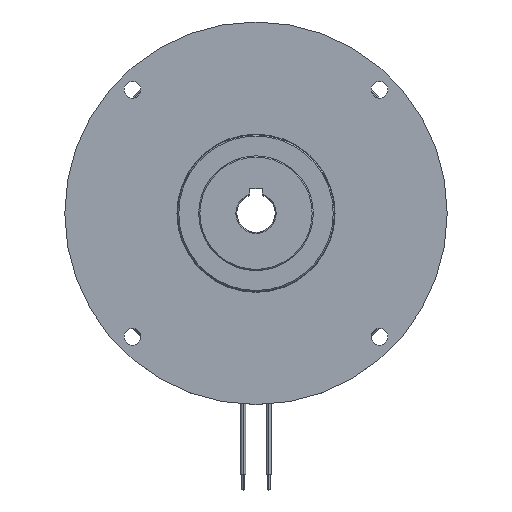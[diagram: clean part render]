
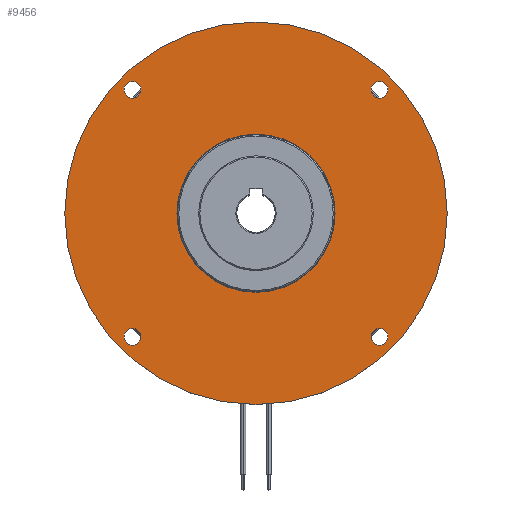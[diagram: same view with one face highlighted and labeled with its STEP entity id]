
A CAD part, top view. The second image highlights one B-rep face of the part: STEP entity #9456.
In plain terms, the highlighted planar face has unit normal (0, 0, 1).
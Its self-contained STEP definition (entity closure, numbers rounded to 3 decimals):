
#465 = FACE_BOUND ( 'NONE', #22635, .T. ) ;
#683 = VERTEX_POINT ( 'NONE', #22311 ) ;
#684 = ORIENTED_EDGE ( 'NONE', *, *, #16768, .F. ) ;
#909 = DIRECTION ( 'NONE',  ( 0., 0., -1. ) ) ;
#952 = VERTEX_POINT ( 'NONE', #9404 ) ;
#1101 = DIRECTION ( 'NONE',  ( 0., 0., -1. ) ) ;
#1283 = ORIENTED_EDGE ( 'NONE', *, *, #11170, .T. ) ;
#1531 = EDGE_CURVE ( 'NONE', #15375, #952, #26272, .T. ) ;
#1768 = ORIENTED_EDGE ( 'NONE', *, *, #23195, .T. ) ;
#2062 = CIRCLE ( 'NONE', #9423, 31. ) ;
#2104 = FACE_OUTER_BOUND ( 'NONE', #24257, .T. ) ;
#2243 = CARTESIAN_POINT ( 'NONE',  ( -45.137, -48.437, 0. ) ) ;
#2867 = AXIS2_PLACEMENT_3D ( 'NONE', #15293, #23554, #4973 ) ;
#2942 = EDGE_CURVE ( 'NONE', #24978, #11430, #24157, .T. ) ;
#3146 = DIRECTION ( 'NONE',  ( 0., 0., -1. ) ) ;
#3239 = DIRECTION ( 'NONE',  ( -1., 0., 0. ) ) ;
#3457 = DIRECTION ( 'NONE',  ( -1., 0., 0. ) ) ;
#3678 = EDGE_CURVE ( 'NONE', #952, #15375, #23582, .T. ) ;
#3810 = EDGE_CURVE ( 'NONE', #9286, #9481, #7128, .T. ) ;
#4313 = CARTESIAN_POINT ( 'NONE',  ( 0., 0., 0. ) ) ;
#4579 = EDGE_LOOP ( 'NONE', ( #18993, #18639 ) ) ;
#4724 = EDGE_CURVE ( 'NONE', #15166, #12091, #22461, .T. ) ;
#4908 = CARTESIAN_POINT ( 'NONE',  ( 48.437, -48.437, 0. ) ) ;
#4973 = DIRECTION ( 'NONE',  ( -1., 0., 0. ) ) ;
#5162 = DIRECTION ( 'NONE',  ( -1., 0., 0. ) ) ;
#5163 = CARTESIAN_POINT ( 'NONE',  ( -48.437, 48.437, 0. ) ) ;
#6232 = CIRCLE ( 'NONE', #14897, 3.3 ) ;
#6578 = FACE_BOUND ( 'NONE', #7935, .T. ) ;
#6722 = ORIENTED_EDGE ( 'NONE', *, *, #18535, .T. ) ;
#7128 = CIRCLE ( 'NONE', #19648, 3.3 ) ;
#7416 = CIRCLE ( 'NONE', #16916, 75. ) ;
#7419 = CARTESIAN_POINT ( 'NONE',  ( 48.437, -48.437, 0. ) ) ;
#7468 = CARTESIAN_POINT ( 'NONE',  ( -31., 0., 0. ) ) ;
#7535 = CARTESIAN_POINT ( 'NONE',  ( 0., 0., 0. ) ) ;
#7539 = ORIENTED_EDGE ( 'NONE', *, *, #19786, .T. ) ;
#7688 = CARTESIAN_POINT ( 'NONE',  ( -51.737, -48.437, 0. ) ) ;
#7836 = CIRCLE ( 'NONE', #8732, 3.3 ) ;
#7908 = AXIS2_PLACEMENT_3D ( 'NONE', #14658, #25108, #8004 ) ;
#7935 = EDGE_LOOP ( 'NONE', ( #9519, #1768 ) ) ;
#8004 = DIRECTION ( 'NONE',  ( -1., 0., 0. ) ) ;
#8614 = CARTESIAN_POINT ( 'NONE',  ( -75., 0., 0. ) ) ;
#8732 = AXIS2_PLACEMENT_3D ( 'NONE', #10970, #19157, #21830 ) ;
#8740 = VERTEX_POINT ( 'NONE', #8614 ) ;
#8861 = VERTEX_POINT ( 'NONE', #9664 ) ;
#9005 = ORIENTED_EDGE ( 'NONE', *, *, #18978, .T. ) ;
#9264 = CARTESIAN_POINT ( 'NONE',  ( 0., 0., 0. ) ) ;
#9286 = VERTEX_POINT ( 'NONE', #10428 ) ;
#9296 = AXIS2_PLACEMENT_3D ( 'NONE', #25148, #12515, #21199 ) ;
#9404 = CARTESIAN_POINT ( 'NONE',  ( 51.737, 48.437, 0. ) ) ;
#9423 = AXIS2_PLACEMENT_3D ( 'NONE', #7535, #13783, #3457 ) ;
#9456 = ADVANCED_FACE ( 'NONE', ( #10771, #465, #25178, #6578, #2104, #20962 ), #20694, .F. ) ;
#9481 = VERTEX_POINT ( 'NONE', #25045 ) ;
#9519 = ORIENTED_EDGE ( 'NONE', *, *, #2942, .T. ) ;
#9547 = ORIENTED_EDGE ( 'NONE', *, *, #4724, .T. ) ;
#9664 = CARTESIAN_POINT ( 'NONE',  ( 75., 0., 0. ) ) ;
#10428 = CARTESIAN_POINT ( 'NONE',  ( 51.737, -48.437, 0. ) ) ;
#10601 = ORIENTED_EDGE ( 'NONE', *, *, #3810, .T. ) ;
#10640 = DIRECTION ( 'NONE',  ( -1., 0., 0. ) ) ;
#10771 = FACE_BOUND ( 'NONE', #4579, .T. ) ;
#10970 = CARTESIAN_POINT ( 'NONE',  ( -48.437, 48.437, 0. ) ) ;
#11170 = EDGE_CURVE ( 'NONE', #9481, #9286, #22299, .T. ) ;
#11403 = DIRECTION ( 'NONE',  ( -1., 0., 0. ) ) ;
#11430 = VERTEX_POINT ( 'NONE', #22402 ) ;
#12091 = VERTEX_POINT ( 'NONE', #7688 ) ;
#12318 = EDGE_LOOP ( 'NONE', ( #6722, #9005 ) ) ;
#12462 = AXIS2_PLACEMENT_3D ( 'NONE', #5163, #25541, #23496 ) ;
#12515 = DIRECTION ( 'NONE',  ( 0., 0., -1. ) ) ;
#12634 = ORIENTED_EDGE ( 'NONE', *, *, #23386, .F. ) ;
#13209 = DIRECTION ( 'NONE',  ( 0., 0., -1. ) ) ;
#13522 = AXIS2_PLACEMENT_3D ( 'NONE', #7419, #909, #13923 ) ;
#13783 = DIRECTION ( 'NONE',  ( 0., 0., -1. ) ) ;
#13923 = DIRECTION ( 'NONE',  ( -1., 0., 0. ) ) ;
#14591 = CARTESIAN_POINT ( 'NONE',  ( 0., 75., 0. ) ) ;
#14658 = CARTESIAN_POINT ( 'NONE',  ( 0., 0., 0. ) ) ;
#14897 = AXIS2_PLACEMENT_3D ( 'NONE', #21348, #3146, #11403 ) ;
#15166 = VERTEX_POINT ( 'NONE', #2243 ) ;
#15285 = CIRCLE ( 'NONE', #7908, 31. ) ;
#15293 = CARTESIAN_POINT ( 'NONE',  ( 48.437, 48.437, 0. ) ) ;
#15375 = VERTEX_POINT ( 'NONE', #21631 ) ;
#16542 = DIRECTION ( 'NONE',  ( -1., 0., 0. ) ) ;
#16768 = EDGE_CURVE ( 'NONE', #8861, #8740, #18949, .T. ) ;
#16916 = AXIS2_PLACEMENT_3D ( 'NONE', #4313, #20871, #16542 ) ;
#17065 = AXIS2_PLACEMENT_3D ( 'NONE', #14591, #22990, #10640 ) ;
#18535 = EDGE_CURVE ( 'NONE', #18819, #683, #2062, .T. ) ;
#18639 = ORIENTED_EDGE ( 'NONE', *, *, #3678, .T. ) ;
#18819 = VERTEX_POINT ( 'NONE', #7468 ) ;
#18949 = CIRCLE ( 'NONE', #23238, 75. ) ;
#18978 = EDGE_CURVE ( 'NONE', #683, #18819, #15285, .T. ) ;
#18993 = ORIENTED_EDGE ( 'NONE', *, *, #1531, .T. ) ;
#19157 = DIRECTION ( 'NONE',  ( 0., 0., -1. ) ) ;
#19648 = AXIS2_PLACEMENT_3D ( 'NONE', #4908, #1101, #5162 ) ;
#19786 = EDGE_CURVE ( 'NONE', #12091, #15166, #6232, .T. ) ;
#20442 = CARTESIAN_POINT ( 'NONE',  ( -51.737, 48.437, 0. ) ) ;
#20514 = EDGE_LOOP ( 'NONE', ( #7539, #9547 ) ) ;
#20694 = PLANE ( 'NONE',  #17065 ) ;
#20871 = DIRECTION ( 'NONE',  ( 0., 0., -1. ) ) ;
#20962 = FACE_BOUND ( 'NONE', #12318, .T. ) ;
#21199 = DIRECTION ( 'NONE',  ( -1., 0., 0. ) ) ;
#21348 = CARTESIAN_POINT ( 'NONE',  ( -48.437, -48.437, 0. ) ) ;
#21610 = DIRECTION ( 'NONE',  ( -1., 0., 0. ) ) ;
#21631 = CARTESIAN_POINT ( 'NONE',  ( 45.137, 48.437, 0. ) ) ;
#21830 = DIRECTION ( 'NONE',  ( -1., 0., 0. ) ) ;
#21968 = CARTESIAN_POINT ( 'NONE',  ( -48.437, -48.437, 0. ) ) ;
#22299 = CIRCLE ( 'NONE', #13522, 3.3 ) ;
#22311 = CARTESIAN_POINT ( 'NONE',  ( 31., 0., 0. ) ) ;
#22402 = CARTESIAN_POINT ( 'NONE',  ( -45.137, 48.437, 0. ) ) ;
#22461 = CIRCLE ( 'NONE', #23337, 3.3 ) ;
#22635 = EDGE_LOOP ( 'NONE', ( #1283, #10601 ) ) ;
#22990 = DIRECTION ( 'NONE',  ( 0., 0., -1. ) ) ;
#23195 = EDGE_CURVE ( 'NONE', #11430, #24978, #7836, .T. ) ;
#23238 = AXIS2_PLACEMENT_3D ( 'NONE', #9264, #13209, #21610 ) ;
#23337 = AXIS2_PLACEMENT_3D ( 'NONE', #21968, #23467, #3239 ) ;
#23386 = EDGE_CURVE ( 'NONE', #8740, #8861, #7416, .T. ) ;
#23467 = DIRECTION ( 'NONE',  ( 0., 0., -1. ) ) ;
#23496 = DIRECTION ( 'NONE',  ( -1., 0., 0. ) ) ;
#23554 = DIRECTION ( 'NONE',  ( 0., 0., -1. ) ) ;
#23582 = CIRCLE ( 'NONE', #9296, 3.3 ) ;
#24157 = CIRCLE ( 'NONE', #12462, 3.3 ) ;
#24257 = EDGE_LOOP ( 'NONE', ( #12634, #684 ) ) ;
#24978 = VERTEX_POINT ( 'NONE', #20442 ) ;
#25045 = CARTESIAN_POINT ( 'NONE',  ( 45.137, -48.437, 0. ) ) ;
#25108 = DIRECTION ( 'NONE',  ( 0., 0., -1. ) ) ;
#25148 = CARTESIAN_POINT ( 'NONE',  ( 48.437, 48.437, 0. ) ) ;
#25178 = FACE_BOUND ( 'NONE', #20514, .T. ) ;
#25541 = DIRECTION ( 'NONE',  ( 0., 0., -1. ) ) ;
#26272 = CIRCLE ( 'NONE', #2867, 3.3 ) ;
